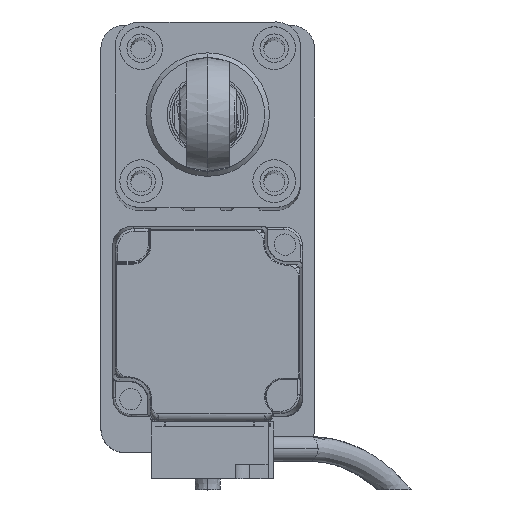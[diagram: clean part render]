
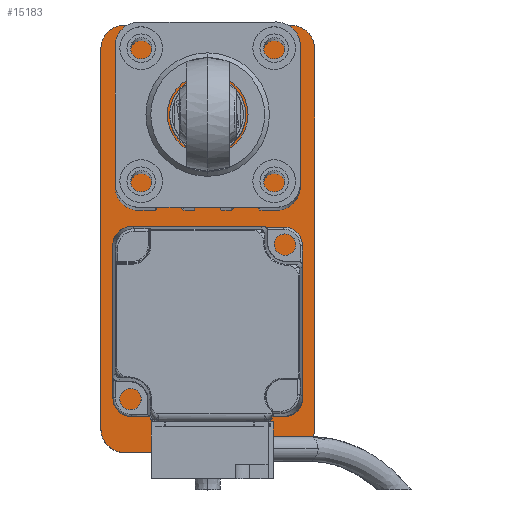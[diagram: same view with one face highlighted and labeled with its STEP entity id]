
A CAD part, top view. The second image highlights one B-rep face of the part: STEP entity #15183.
In plain terms, the highlighted planar face has unit normal (0, 0, 1).
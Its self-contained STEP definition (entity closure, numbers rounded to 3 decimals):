
#16 = VECTOR ( 'NONE', #16285, 1000. ) ;
#17 = DIRECTION ( 'NONE',  ( 1., 0., 0. ) ) ;
#1036 = ORIENTED_EDGE ( 'NONE', *, *, #31029, .T. ) ;
#1683 = DIRECTION ( 'NONE',  ( 0., 0., 1. ) ) ;
#1882 = CARTESIAN_POINT ( 'NONE',  ( -17.5, 40., 10. ) ) ;
#3270 = VERTEX_POINT ( 'NONE', #21865 ) ;
#3822 = DIRECTION ( 'NONE',  ( 0., 0., 1. ) ) ;
#4355 = LINE ( 'NONE', #28942, #16 ) ;
#4506 = EDGE_LOOP ( 'NONE', ( #27396, #19257, #16813, #25597, #7159, #19883, #1036, #31958 ) ) ;
#4591 = CARTESIAN_POINT ( 'NONE',  ( 22.5, -40., 10. ) ) ;
#5835 = EDGE_CURVE ( 'NONE', #22078, #17411, #31536, .T. ) ;
#6143 = CARTESIAN_POINT ( 'NONE',  ( 0., 0., 10. ) ) ;
#6410 = VERTEX_POINT ( 'NONE', #29270 ) ;
#6503 = FACE_OUTER_BOUND ( 'NONE', #4506, .T. ) ;
#6737 = EDGE_CURVE ( 'NONE', #6410, #22078, #9840, .T. ) ;
#7159 = ORIENTED_EDGE ( 'NONE', *, *, #15800, .T. ) ;
#7975 = DIRECTION ( 'NONE',  ( 0., 0., 1. ) ) ;
#8002 = AXIS2_PLACEMENT_3D ( 'NONE', #6143, #3822, #23763 ) ;
#8692 = EDGE_CURVE ( 'NONE', #12667, #18538, #14444, .T. ) ;
#9030 = CARTESIAN_POINT ( 'NONE',  ( 22.5, -45., 10. ) ) ;
#9140 = DIRECTION ( 'NONE',  ( 0., 0., 1. ) ) ;
#9840 = LINE ( 'NONE', #14337, #26783 ) ;
#10160 = DIRECTION ( 'NONE',  ( 0., -1., 0. ) ) ;
#10212 = AXIS2_PLACEMENT_3D ( 'NONE', #23349, #20922, #10611 ) ;
#10390 = CARTESIAN_POINT ( 'NONE',  ( -22.5, -45., 10. ) ) ;
#10611 = DIRECTION ( 'NONE',  ( 1., 0., 0. ) ) ;
#11823 = CIRCLE ( 'NONE', #10212, 5. ) ;
#12667 = VERTEX_POINT ( 'NONE', #16271 ) ;
#13585 = CARTESIAN_POINT ( 'NONE',  ( -17.5, -45., 10. ) ) ;
#14337 = CARTESIAN_POINT ( 'NONE',  ( 22.5, 45., 10. ) ) ;
#14444 = CIRCLE ( 'NONE', #18077, 5. ) ;
#15183 = ADVANCED_FACE ( 'NONE', ( #6503 ), #21216, .T. ) ;
#15800 = EDGE_CURVE ( 'NONE', #17411, #12667, #24230, .T. ) ;
#16271 = CARTESIAN_POINT ( 'NONE',  ( -22.5, -40., 10. ) ) ;
#16285 = DIRECTION ( 'NONE',  ( 0., 1., 0. ) ) ;
#16505 = CARTESIAN_POINT ( 'NONE',  ( 17.5, 40., 10. ) ) ;
#16813 = ORIENTED_EDGE ( 'NONE', *, *, #6737, .T. ) ;
#17366 = VECTOR ( 'NONE', #21331, 1000. ) ;
#17411 = VERTEX_POINT ( 'NONE', #21919 ) ;
#17508 = VECTOR ( 'NONE', #10160, 1000. ) ;
#18077 = AXIS2_PLACEMENT_3D ( 'NONE', #20502, #7975, #17 ) ;
#18538 = VERTEX_POINT ( 'NONE', #13585 ) ;
#18783 = DIRECTION ( 'NONE',  ( 1., 0., 0. ) ) ;
#19257 = ORIENTED_EDGE ( 'NONE', *, *, #30918, .T. ) ;
#19883 = ORIENTED_EDGE ( 'NONE', *, *, #8692, .T. ) ;
#20013 = AXIS2_PLACEMENT_3D ( 'NONE', #16505, #9140, #18783 ) ;
#20171 = EDGE_CURVE ( 'NONE', #28832, #28387, #11823, .T. ) ;
#20502 = CARTESIAN_POINT ( 'NONE',  ( -17.5, -40., 10. ) ) ;
#20826 = CARTESIAN_POINT ( 'NONE',  ( -17.5, 45., 10. ) ) ;
#20922 = DIRECTION ( 'NONE',  ( 0., 0., 1. ) ) ;
#20924 = LINE ( 'NONE', #9030, #17366 ) ;
#21216 = PLANE ( 'NONE',  #8002 ) ;
#21331 = DIRECTION ( 'NONE',  ( 1., 0., 0. ) ) ;
#21724 = CIRCLE ( 'NONE', #20013, 5. ) ;
#21865 = CARTESIAN_POINT ( 'NONE',  ( 22.5, 40., 10. ) ) ;
#21919 = CARTESIAN_POINT ( 'NONE',  ( -22.5, 40., 10. ) ) ;
#22078 = VERTEX_POINT ( 'NONE', #20826 ) ;
#23349 = CARTESIAN_POINT ( 'NONE',  ( 17.5, -40., 10. ) ) ;
#23763 = DIRECTION ( 'NONE',  ( 1., 0., 0. ) ) ;
#24230 = LINE ( 'NONE', #10390, #17508 ) ;
#25597 = ORIENTED_EDGE ( 'NONE', *, *, #5835, .T. ) ;
#26712 = AXIS2_PLACEMENT_3D ( 'NONE', #1882, #1683, #32155 ) ;
#26783 = VECTOR ( 'NONE', #31728, 1000. ) ;
#27362 = CARTESIAN_POINT ( 'NONE',  ( 17.5, -45., 10. ) ) ;
#27396 = ORIENTED_EDGE ( 'NONE', *, *, #31005, .T. ) ;
#28387 = VERTEX_POINT ( 'NONE', #4591 ) ;
#28832 = VERTEX_POINT ( 'NONE', #27362 ) ;
#28942 = CARTESIAN_POINT ( 'NONE',  ( 22.5, -45., 10. ) ) ;
#29270 = CARTESIAN_POINT ( 'NONE',  ( 17.5, 45., 10. ) ) ;
#30918 = EDGE_CURVE ( 'NONE', #3270, #6410, #21724, .T. ) ;
#31005 = EDGE_CURVE ( 'NONE', #28387, #3270, #4355, .T. ) ;
#31029 = EDGE_CURVE ( 'NONE', #18538, #28832, #20924, .T. ) ;
#31536 = CIRCLE ( 'NONE', #26712, 5. ) ;
#31728 = DIRECTION ( 'NONE',  ( -1., 0., 0. ) ) ;
#31958 = ORIENTED_EDGE ( 'NONE', *, *, #20171, .T. ) ;
#32155 = DIRECTION ( 'NONE',  ( 1., 0., 0. ) ) ;
